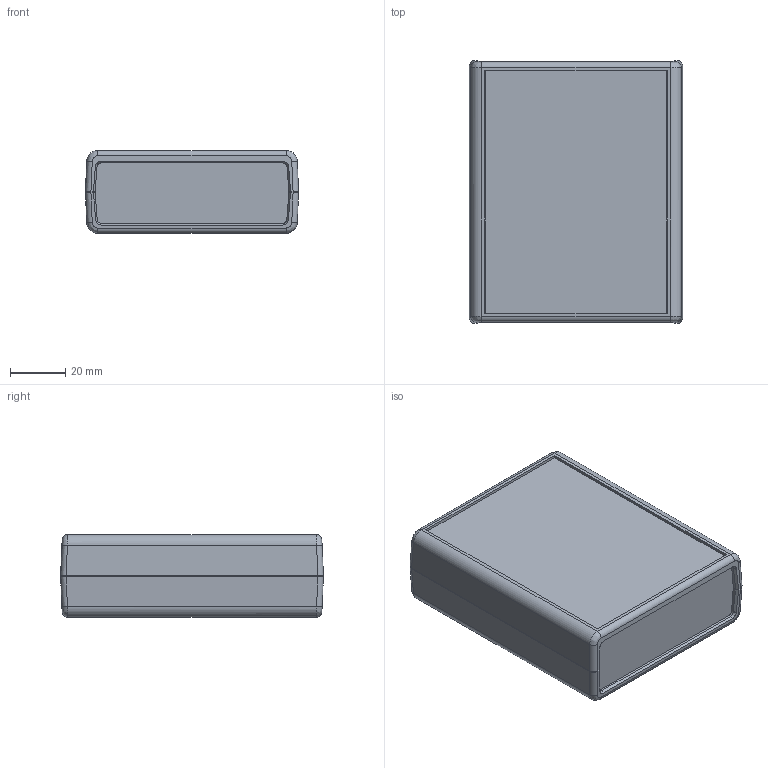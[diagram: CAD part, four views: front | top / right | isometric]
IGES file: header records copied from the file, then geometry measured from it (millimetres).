
Global section: file name: 1593BB.iam; native system: Autodesk Inventor 2016; preprocessor: unknown; author: MBeerman; date: 20160425.153537; units: millimetre
Bounding box: 77.31 x 95.31 x 30.06 mm (x, y, z)
Volume: 65098.9 mm3; surface area: 65355.3 mm2
Topology: 9 solids, 9 shells, 403 faces, 1090 edges, 730 vertices
Faces by surface type: plane 231, revolution 88, cylinder 32, bspline 28, cone 20, sphere 4
Full cylindrical faces by diameter (mm): 2.845 x4, 5.8 x8
